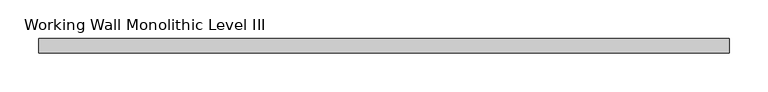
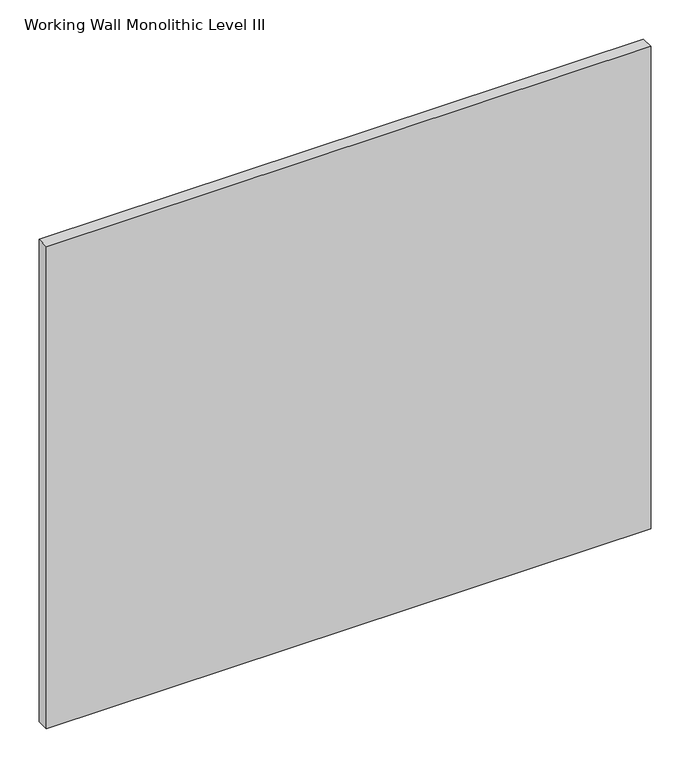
"""IFC4 building model written with IfcOpenShell, lengths in millimetres: proxy geometry, Panel-Fascia-Teknion-Altos-Standard : Working Wall Monolithic Level III."""

from ifc_helpers import new_model, si_unit, frame, origin, place, context, project, spatial, polyline, outline, extrude, source, transform, mapped, element, save


def working_wall_monolithic_level_iii_fa76c758(model_context):
    return source(origin(), model_context, "Body", "SweptSolid", [
        extrude(outline(polyline([(447.0356344, 9.525), (447.0356344, -9.525), (-447.0356344, -9.525), (-447.0356344, 9.525), (447.0356344, 9.525)])), frame((0.0, 0.0, 3.175), z_axis=(0.0, 0.0, 1.0), x_axis=(1.0, 0.0, 0.0)), (0.0, 0.0, 1.0), 753.618),
    ])


if __name__ == "__main__":
    model = new_model("IFC4")
    model_context = context("Model", 3, world=origin())
    ifc_project = project(units=[si_unit("LENGTHUNIT", "METRE", prefix="MILLI")], contexts=[model_context])
    site = spatial("IfcSite", under=ifc_project)
    building = spatial("IfcBuilding", under=site)
    placement = place(None, origin())
    working_wall_monolithic_level_iii_shape = working_wall_monolithic_level_iii_fa76c758(model_context)
    element("IfcBuildingElementProxy", 1, Name="Panel-Fascia-Teknion-Altos-Standard : Working Wall Monolithic Level III", ObjectType="Panel-Fascia-Teknion-Altos-Standard : Working Wall Monolithic Level III", at=placement, inside=building, context=model_context, shape_type="MappedRepresentation", body=[
        mapped(working_wall_monolithic_level_iii_shape, transform((0.0, 0.0, 0.0), x_axis=(1.0, 0.0, 0.0), y_axis=(0.0, 1.0, 0.0), z_axis=(0.0, 0.0, 1.0))),
    ])
    save(model, "model.ifc")
